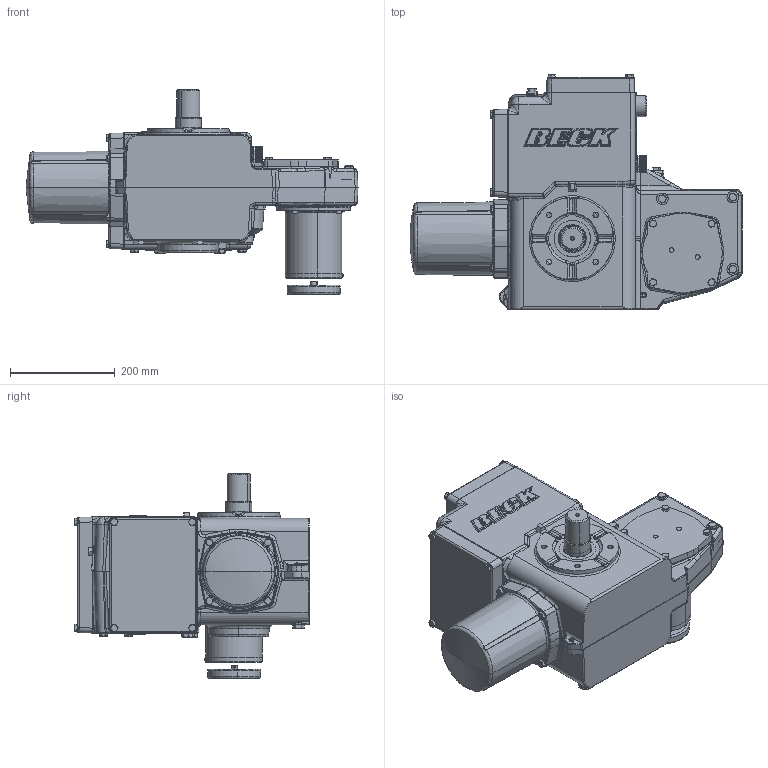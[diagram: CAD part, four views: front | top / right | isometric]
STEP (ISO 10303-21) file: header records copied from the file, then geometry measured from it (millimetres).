
FILE_DESCRIPTION (( 'STEP AP203' ), '1' );
FILE_NAME ('18-0360-01.STEP', '2013-01-10T13:38:46', ( '' ), ( '' ), 'SwSTEP 2.0', 'SolidWorks 2011', '' );
FILE_SCHEMA (( 'CONFIG_CONTROL_DESIGN' ));
Products named in the file (1): 18-0360-01
Bounding box: 635.39 x 449.38 x 391.85 mm (x, y, z)
Surface area: 1031761.8 mm2 (no closed solid volume)
Topology: 0 solids, 93 shells, 1830 faces, 6941 edges, 4934 vertices
Faces by surface type: cylinder 572, plane 539, bspline 307, cone 198, torus 192, sphere 22
Entity records: 91856 total; most frequent: CARTESIAN_POINT 38414, DIRECTION 10607, ORIENTED_EDGE 10227, EDGE_CURVE 6883, VERTEX_POINT 4934, AXIS2_PLACEMENT_3D 3902, VECTOR 2803, LINE 2803
